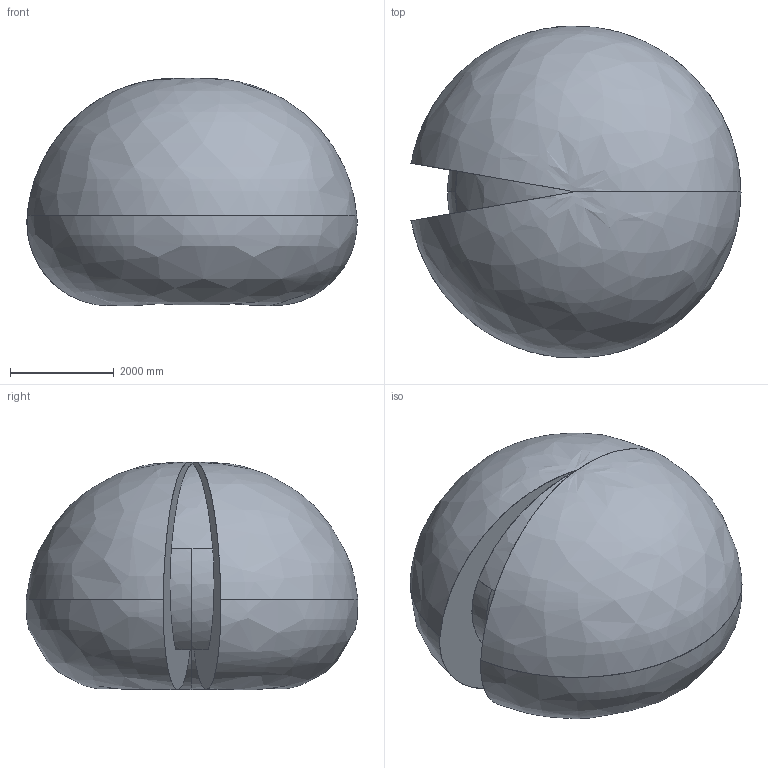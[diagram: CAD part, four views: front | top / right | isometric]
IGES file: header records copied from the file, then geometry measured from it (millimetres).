
Start section: SolidWorks IGES file using analytic representation for surfaces
Global section: file name: C:\Data\SAP_DOC\LW\IRB 6720\IRB6720-MH3_160kg-320_OC_01_SW_J\IRB6720-MH3_160kg-320_OC_01_IGES_J\IRB6720-MH3_160kg-320_OC_00_Working-space.igs; native system: SolidWorks 2024; preprocessor: SolidWorks 2024; author: SEJOVAS3; date: 260610.134211; units: millimetre
Bounding box: 6351.41 x 6384.27 x 4371.64 mm (x, y, z)
Surface area: 135529018.6 mm2 (no closed solid volume)
Topology: 0 solids, 0 shells, 18 faces, 430 edges, 424 vertices
Faces by surface type: bspline 18
